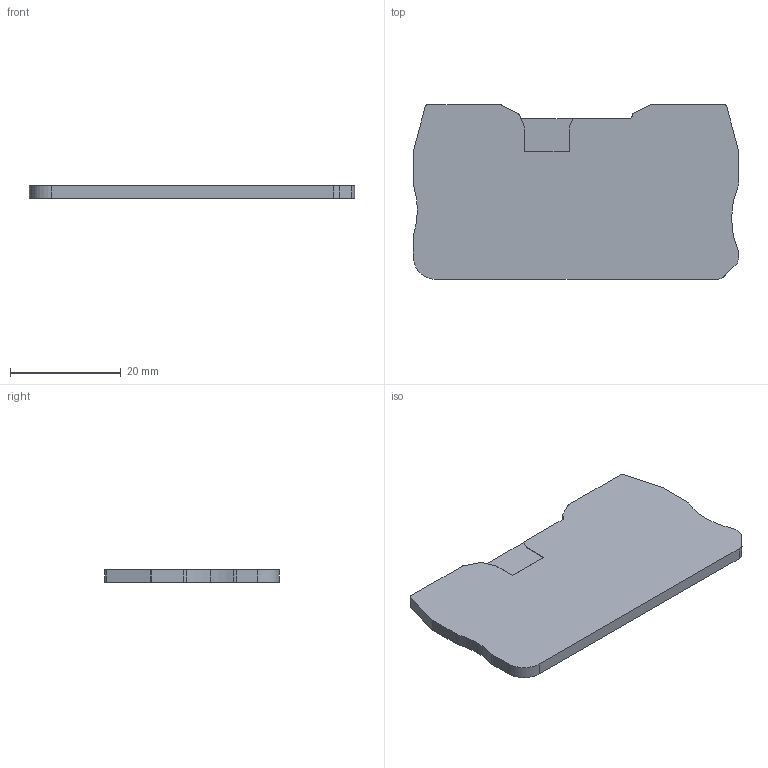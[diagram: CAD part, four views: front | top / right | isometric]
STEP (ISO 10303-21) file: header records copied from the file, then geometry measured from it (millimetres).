
FILE_DESCRIPTION(('SolidDesigner STEP Export'),'2;1');
FILE_NAME('3205161_d_qtc15_select.stp','2004-02-10T 7:12:52',(''),(''),'OneSpaceDesigner STEP processor Version: 9.0 (March 2001)for AP203(Solid Model)','CoCreate OneSpaceDesigner: 11.50A 18-Jul-2002(C) CoCreate Software GmbH','');
FILE_SCHEMA(('CONFIG_CONTROL_DESIGN'));
Length unit declared in the file: millimetre
Products named in the file (2): 3205161_d_qtc15_select
Assembly tree (1 placements, depth 2):
  3205161_d_qtc15_select
    3205161_d_qtc15_select
Bounding box: 58.8 x 31.55 x 2.2 mm (x, y, z)
Volume: 3846.9 mm3; surface area: 3905 mm2
Topology: 1 solids, 1 shells, 47 faces, 135 edges, 90 vertices
Faces by surface type: plane 27, cylinder 20
Entity records: 2097 total; most frequent: ORIENTED_EDGE 270, CARTESIAN_POINT 264, DIRECTION 253, EDGE_CURVE 135, VECTOR 95, LINE 95, VERTEX_POINT 90, AXIS2_PLACEMENT_3D 79
